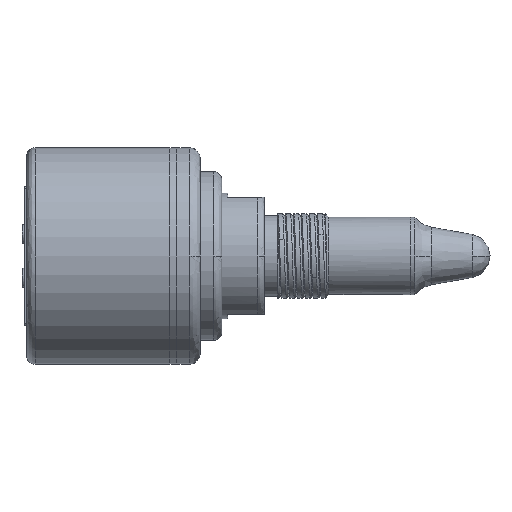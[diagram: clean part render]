
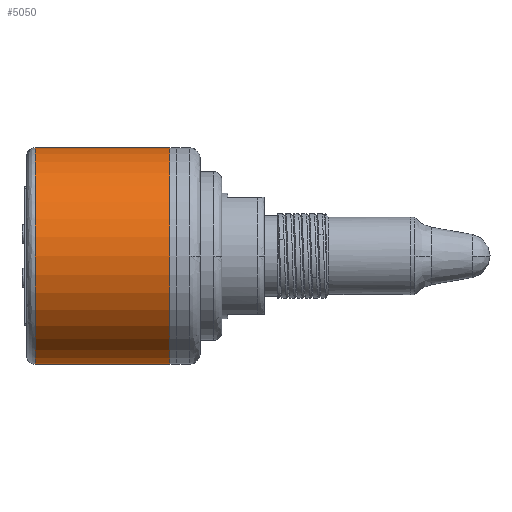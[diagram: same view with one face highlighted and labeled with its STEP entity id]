
A CAD part, left-side view. The second image highlights one B-rep face of the part: STEP entity #5050.
In plain terms, the highlighted cylindrical face has radius 25 mm (diameter 50 mm), a partial arc.
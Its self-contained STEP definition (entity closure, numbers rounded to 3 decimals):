
#5050=ADVANCED_FACE('',(#12854),#12856,.T.);
#12854=FACE_BOUND('',#12855,.T.);
#12855=EDGE_LOOP('',(#15769,#15770,#15771,#15772));
#12856=CYLINDRICAL_SURFACE('',#12857,25.);
#12857=AXIS2_PLACEMENT_3D('',#12858,#12859,#12860);
#12858=CARTESIAN_POINT('',(-18.46,-11.12,8.347));
#12859=DIRECTION('',(0.,-1.,0.));
#12860=DIRECTION('',(0.,0.,-1.));
#15769=ORIENTED_EDGE('',*,*,#16738,.F.);
#15770=ORIENTED_EDGE('',*,*,#16735,.T.);
#15771=ORIENTED_EDGE('',*,*,#16740,.T.);
#15772=ORIENTED_EDGE('',*,*,#16759,.T.);
#16735=EDGE_CURVE('',#17903,#17901,#17904,.T.);
#16738=EDGE_CURVE('',#17903,#17907,#17908,.T.);
#16740=EDGE_CURVE('',#17901,#17909,#17911,.T.);
#16759=EDGE_CURVE('',#17909,#17907,#17947,.T.);
#17901=VERTEX_POINT('',#26112);
#17903=VERTEX_POINT('',#26117);
#17904=CIRCLE('',#26118,25.);
#17907=VERTEX_POINT('',#26130);
#17908=LINE('',#26131,#26132);
#17909=VERTEX_POINT('',#26134);
#17911=LINE('',#26139,#26140);
#17947=CIRCLE('',#26588,25.);
#26112=CARTESIAN_POINT('',(-18.46,-11.12,-16.653));
#26117=CARTESIAN_POINT('',(-18.46,-11.12,33.347));
#26118=AXIS2_PLACEMENT_3D('',#26119,#26120,#26121);
#26119=CARTESIAN_POINT('',(-18.46,-11.12,8.347));
#26120=DIRECTION('',(0.,-1.,0.));
#26121=DIRECTION('',(0.,0.,1.));
#26130=CARTESIAN_POINT('',(-18.46,-42.12,33.347));
#26131=CARTESIAN_POINT('',(-18.46,-11.12,33.347));
#26132=VECTOR('',#26133,1.);
#26133=DIRECTION('',(0.,-1.,0.));
#26134=CARTESIAN_POINT('',(-18.46,-42.12,-16.653));
#26139=CARTESIAN_POINT('',(-18.46,-11.12,-16.653));
#26140=VECTOR('',#26141,1.);
#26141=DIRECTION('',(0.,-1.,0.));
#26588=AXIS2_PLACEMENT_3D('',#26589,#26590,#26591);
#26589=CARTESIAN_POINT('',(-18.46,-42.12,8.347));
#26590=DIRECTION('',(0.,1.,0.));
#26591=DIRECTION('',(0.,0.,-1.));
